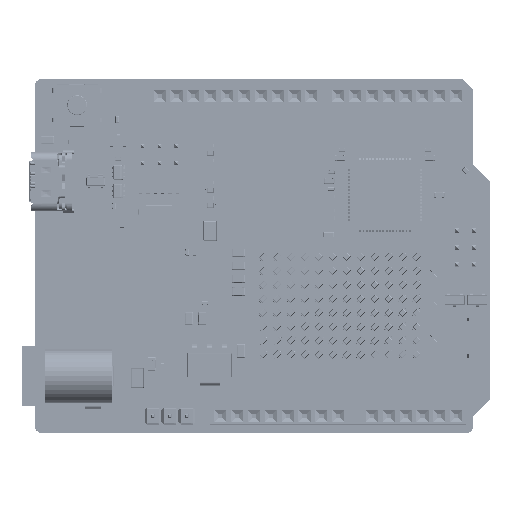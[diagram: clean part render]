
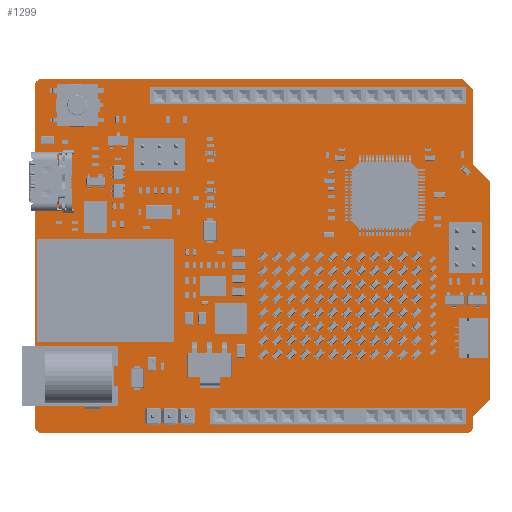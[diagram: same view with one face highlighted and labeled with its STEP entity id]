
A CAD part, top view. The second image highlights one B-rep face of the part: STEP entity #1299.
In plain terms, the highlighted planar face has unit normal (0, 0, 1).
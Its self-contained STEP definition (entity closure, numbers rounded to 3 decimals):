
#908 = VERTEX_POINT('',#909);
#909 = CARTESIAN_POINT('',(0.,1.,1.606));
#915 = EDGE_CURVE('',#908,#916,#918,.T.);
#916 = VERTEX_POINT('',#917);
#917 = CARTESIAN_POINT('',(0.,52.34,1.606));
#918 = LINE('',#919,#920);
#919 = CARTESIAN_POINT('',(0.,1.,1.606));
#920 = VECTOR('',#921,1.);
#921 = DIRECTION('',(0.,1.,0.));
#946 = EDGE_CURVE('',#916,#947,#949,.T.);
#947 = VERTEX_POINT('',#948);
#948 = CARTESIAN_POINT('',(1.,53.34,1.606));
#949 = CIRCLE('',#950,1.);
#950 = AXIS2_PLACEMENT_3D('',#951,#952,#953);
#951 = CARTESIAN_POINT('',(1.,52.34,1.606));
#952 = DIRECTION('',(0.,0.,-1.));
#953 = DIRECTION('',(-1.,0.,0.));
#979 = EDGE_CURVE('',#947,#980,#982,.T.);
#980 = VERTEX_POINT('',#981);
#981 = CARTESIAN_POINT('',(64.516,53.34,1.606));
#982 = LINE('',#983,#984);
#983 = CARTESIAN_POINT('',(1.,53.34,1.606));
#984 = VECTOR('',#985,1.);
#985 = DIRECTION('',(1.,0.,0.));
#1010 = EDGE_CURVE('',#980,#1011,#1013,.T.);
#1011 = VERTEX_POINT('',#1012);
#1012 = CARTESIAN_POINT('',(66.04,51.816,1.606));
#1013 = LINE('',#1014,#1015);
#1014 = CARTESIAN_POINT('',(64.516,53.34,1.606));
#1015 = VECTOR('',#1016,1.);
#1016 = DIRECTION('',(0.707,-0.707,0.));
#1041 = EDGE_CURVE('',#1011,#1042,#1044,.T.);
#1042 = VERTEX_POINT('',#1043);
#1043 = CARTESIAN_POINT('',(66.04,40.386,1.606));
#1044 = LINE('',#1045,#1046);
#1045 = CARTESIAN_POINT('',(66.04,51.816,1.606));
#1046 = VECTOR('',#1047,1.);
#1047 = DIRECTION('',(0.,-1.,0.));
#1072 = EDGE_CURVE('',#1042,#1073,#1075,.T.);
#1073 = VERTEX_POINT('',#1074);
#1074 = CARTESIAN_POINT('',(68.58,37.846,1.606));
#1075 = LINE('',#1076,#1077);
#1076 = CARTESIAN_POINT('',(66.04,40.386,1.606));
#1077 = VECTOR('',#1078,1.);
#1078 = DIRECTION('',(0.707,-0.707,0.));
#1103 = EDGE_CURVE('',#1073,#1104,#1106,.T.);
#1104 = VERTEX_POINT('',#1105);
#1105 = CARTESIAN_POINT('',(68.58,5.08,1.606));
#1106 = LINE('',#1107,#1108);
#1107 = CARTESIAN_POINT('',(68.58,37.846,1.606));
#1108 = VECTOR('',#1109,1.);
#1109 = DIRECTION('',(0.,-1.,0.));
#1134 = EDGE_CURVE('',#1104,#1135,#1137,.T.);
#1135 = VERTEX_POINT('',#1136);
#1136 = CARTESIAN_POINT('',(66.04,2.54,1.606));
#1137 = LINE('',#1138,#1139);
#1138 = CARTESIAN_POINT('',(68.58,5.08,1.606));
#1139 = VECTOR('',#1140,1.);
#1140 = DIRECTION('',(-0.707,-0.707,0.));
#1165 = EDGE_CURVE('',#1135,#1166,#1168,.T.);
#1166 = VERTEX_POINT('',#1167);
#1167 = CARTESIAN_POINT('',(66.04,1.,1.606));
#1168 = LINE('',#1169,#1170);
#1169 = CARTESIAN_POINT('',(66.04,2.54,1.606));
#1170 = VECTOR('',#1171,1.);
#1171 = DIRECTION('',(0.,-1.,0.));
#1196 = EDGE_CURVE('',#1166,#1197,#1199,.T.);
#1197 = VERTEX_POINT('',#1198);
#1198 = CARTESIAN_POINT('',(65.04,0.,1.606));
#1199 = CIRCLE('',#1200,1.);
#1200 = AXIS2_PLACEMENT_3D('',#1201,#1202,#1203);
#1201 = CARTESIAN_POINT('',(65.04,1.,1.606));
#1202 = DIRECTION('',(0.,0.,-1.));
#1203 = DIRECTION('',(1.,0.,0.));
#1229 = EDGE_CURVE('',#1197,#1230,#1232,.T.);
#1230 = VERTEX_POINT('',#1231);
#1231 = CARTESIAN_POINT('',(1.,0.,1.606));
#1232 = LINE('',#1233,#1234);
#1233 = CARTESIAN_POINT('',(65.04,0.,1.606));
#1234 = VECTOR('',#1235,1.);
#1235 = DIRECTION('',(-1.,0.,0.));
#1260 = EDGE_CURVE('',#1230,#908,#1261,.T.);
#1261 = CIRCLE('',#1262,1.);
#1262 = AXIS2_PLACEMENT_3D('',#1263,#1264,#1265);
#1263 = CARTESIAN_POINT('',(1.,1.,1.606));
#1264 = DIRECTION('',(0.,0.,-1.));
#1265 = DIRECTION('',(0.,-1.,-0.));
#1299 = ADVANCED_FACE('',(#1300),#1314,.F.);
#1300 = FACE_BOUND('',#1301,.F.);
#1301 = EDGE_LOOP('',(#1302,#1303,#1304,#1305,#1306,#1307,#1308,#1309,
    #1310,#1311,#1312,#1313));
#1302 = ORIENTED_EDGE('',*,*,#915,.T.);
#1303 = ORIENTED_EDGE('',*,*,#946,.T.);
#1304 = ORIENTED_EDGE('',*,*,#979,.T.);
#1305 = ORIENTED_EDGE('',*,*,#1010,.T.);
#1306 = ORIENTED_EDGE('',*,*,#1041,.T.);
#1307 = ORIENTED_EDGE('',*,*,#1072,.T.);
#1308 = ORIENTED_EDGE('',*,*,#1103,.T.);
#1309 = ORIENTED_EDGE('',*,*,#1134,.T.);
#1310 = ORIENTED_EDGE('',*,*,#1165,.T.);
#1311 = ORIENTED_EDGE('',*,*,#1196,.T.);
#1312 = ORIENTED_EDGE('',*,*,#1229,.T.);
#1313 = ORIENTED_EDGE('',*,*,#1260,.T.);
#1314 = PLANE('',#1315);
#1315 = AXIS2_PLACEMENT_3D('',#1316,#1317,#1318);
#1316 = CARTESIAN_POINT('',(33.635,26.573,1.606)
  );
#1317 = DIRECTION('',(-0.,-0.,-1.));
#1318 = DIRECTION('',(-1.,0.,0.));
